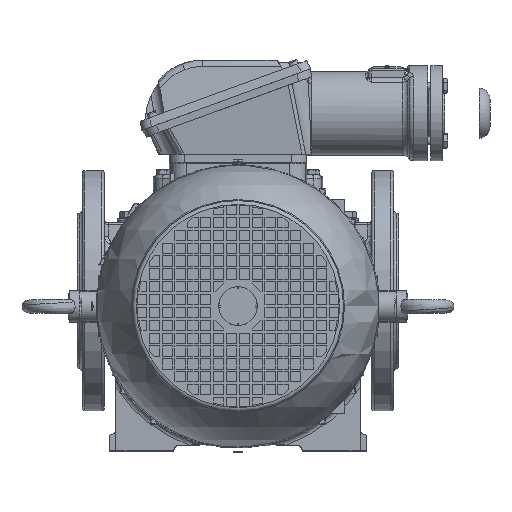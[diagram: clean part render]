
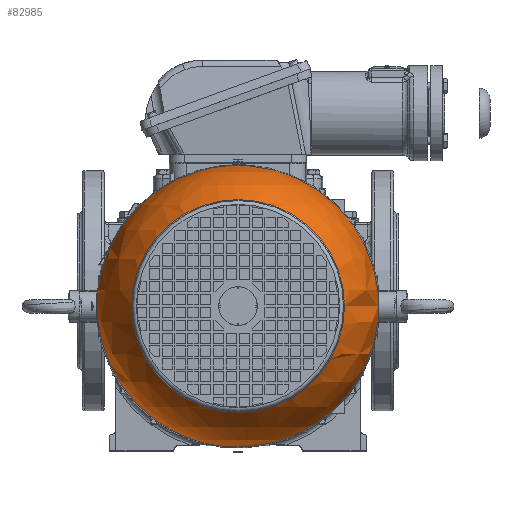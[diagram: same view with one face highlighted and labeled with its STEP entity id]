
A CAD part, top view. The second image highlights one B-rep face of the part: STEP entity #82985.
In plain terms, the highlighted spherical face has radius 109.545 mm.
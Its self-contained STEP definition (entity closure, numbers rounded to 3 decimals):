
#1118=SPHERICAL_SURFACE('',#88264,109.545);
#9750=FACE_BOUND('',#15587,.T.);
#10671=FACE_OUTER_BOUND('',#15586,.T.);
#15586=EDGE_LOOP('',(#58388,#58389));
#15587=EDGE_LOOP('',(#58390,#58391));
#33061=CIRCLE('',#88248,109.507);
#33072=CIRCLE('',#88265,11.444);
#33073=CIRCLE('',#88266,82.833);
#33074=CIRCLE('',#88267,82.833);
#36803=VERTEX_POINT('',#125150);
#36804=VERTEX_POINT('',#125151);
#36841=VERTEX_POINT('',#125424);
#36842=VERTEX_POINT('',#125425);
#44979=EDGE_CURVE('',#36803,#36804,#33061,.T.);
#45022=EDGE_CURVE('',#36804,#36803,#33072,.T.);
#45023=EDGE_CURVE('',#36841,#36842,#33073,.T.);
#45024=EDGE_CURVE('',#36842,#36841,#33074,.T.);
#58388=ORIENTED_EDGE('',*,*,#44979,.T.);
#58389=ORIENTED_EDGE('',*,*,#45022,.T.);
#58390=ORIENTED_EDGE('',*,*,#45023,.F.);
#58391=ORIENTED_EDGE('',*,*,#45024,.F.);
#82985=ADVANCED_FACE('',(#10671,#9750),#1118,.T.);
#88248=AXIS2_PLACEMENT_3D('',#125152,#97080,#97081);
#88264=AXIS2_PLACEMENT_3D('',#125422,#97127,#97128);
#88265=AXIS2_PLACEMENT_3D('',#125423,#97129,#97130);
#88266=AXIS2_PLACEMENT_3D('',#125426,#97131,#97132);
#88267=AXIS2_PLACEMENT_3D('',#125427,#97133,#97134);
#97080=DIRECTION('center_axis',(0.,0.,
1.));
#97081=DIRECTION('ref_axis',(0.,1.,0.));
#97127=DIRECTION('center_axis',(0.,-1.,0.));
#97128=DIRECTION('ref_axis',(-1.,0.,0.));
#97129=DIRECTION('center_axis',(-1.,0.,0.));
#97130=DIRECTION('ref_axis',(0.,1.,0.));
#97131=DIRECTION('center_axis',(0.,0.,
1.));
#97132=DIRECTION('ref_axis',(0.,1.,0.));
#97133=DIRECTION('center_axis',(0.,0.,
1.));
#97134=DIRECTION('ref_axis',(0.,1.,0.));
#125150=CARTESIAN_POINT('',(108.945,11.079,330.268));
#125151=CARTESIAN_POINT('',(108.945,-11.079,330.268));
#125152=CARTESIAN_POINT('Origin',(0.,0.,
330.268));
#125422=CARTESIAN_POINT('Origin',(0.,0.,
327.4));
#125423=CARTESIAN_POINT('Origin',(108.945,0.,
327.4));
#125424=CARTESIAN_POINT('',(0.,82.833,399.084));
#125425=CARTESIAN_POINT('',(0.,-82.833,399.084));
#125426=CARTESIAN_POINT('Origin',(0.,0.,
399.084));
#125427=CARTESIAN_POINT('Origin',(0.,0.,
399.084));
